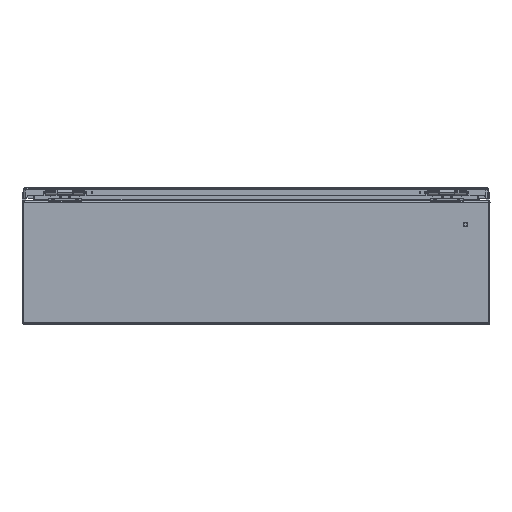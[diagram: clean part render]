
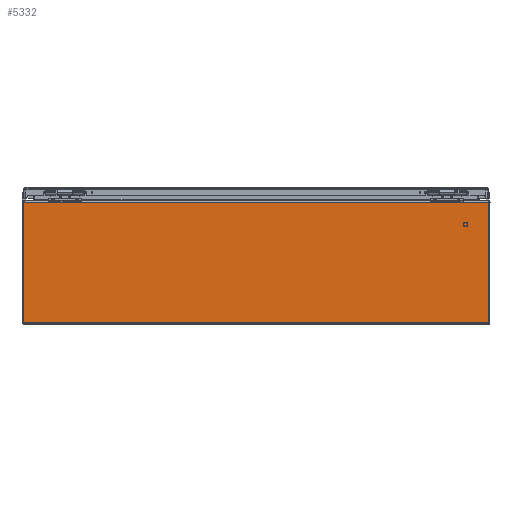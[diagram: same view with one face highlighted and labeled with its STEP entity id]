
A CAD part, left-side view. The second image highlights one B-rep face of the part: STEP entity #5332.
In plain terms, the highlighted planar face has unit normal (-1, 0, 0).
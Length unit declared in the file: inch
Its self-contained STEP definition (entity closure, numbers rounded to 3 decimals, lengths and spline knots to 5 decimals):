
#5332 = ADVANCED_FACE ( 'NONE', ( #39017 ), #40360, .T. ) ;
#10221 = EDGE_CURVE ( 'NONE', #11283, #11267, #18961, .T. ) ;
#10265 = EDGE_CURVE ( 'NONE', #11267, #32257, #19026, .T. ) ;
#10278 = EDGE_CURVE ( 'NONE', #32257, #32245, #19058, .T. ) ;
#10329 = EDGE_CURVE ( 'NONE', #11283, #32245, #22314, .T. ) ;
#11267 = VERTEX_POINT ( 'NONE', #24489 ) ;
#11283 = VERTEX_POINT ( 'NONE', #24505 ) ;
#14772 = EDGE_LOOP ( 'NONE', ( #16818, #16817, #16816, #16815 ) ) ;
#16815 = ORIENTED_EDGE ( 'NONE', *, *, #10265, .T. ) ;
#16816 = ORIENTED_EDGE ( 'NONE', *, *, #10221, .T. ) ;
#16817 = ORIENTED_EDGE ( 'NONE', *, *, #10329, .F. ) ;
#16818 = ORIENTED_EDGE ( 'NONE', *, *, #10278, .T. ) ;
#18961 = LINE ( 'NONE', #20687, #18965 ) ;
#18965 = VECTOR ( 'NONE', #20692, 39.37008 ) ;
#19026 = LINE ( 'NONE', #20904, #19036 ) ;
#19036 = VECTOR ( 'NONE', #20906, 39.37008 ) ;
#19058 = LINE ( 'NONE', #21996, #19059 ) ;
#19059 = VECTOR ( 'NONE', #21997, 39.37008 ) ;
#20687 = CARTESIAN_POINT ( 'NONE',  ( -15., 14.92093, 7.838 ) ) ;
#20692 = DIRECTION ( 'NONE',  ( 0., 0., -1. ) ) ;
#20904 = CARTESIAN_POINT ( 'NONE',  ( -15., 165., 0.132 ) ) ;
#20906 = DIRECTION ( 'NONE',  ( 0., -1., 0. ) ) ;
#21996 = CARTESIAN_POINT ( 'NONE',  ( -15., -14.92093, 7.838 ) ) ;
#21997 = DIRECTION ( 'NONE',  ( 0., 0., 1. ) ) ;
#22123 = CARTESIAN_POINT ( 'NONE',  ( -15., 165., 7.838 ) ) ;
#22124 = DIRECTION ( 'NONE',  ( 0., -1., 0. ) ) ;
#22314 = LINE ( 'NONE', #22123, #22315 ) ;
#22315 = VECTOR ( 'NONE', #22124, 39.37008 ) ;
#24489 = CARTESIAN_POINT ( 'NONE',  ( -15., 14.92093, 0.132 ) ) ;
#24505 = CARTESIAN_POINT ( 'NONE',  ( -15., 14.92093, 7.838 ) ) ;
#32245 = VERTEX_POINT ( 'NONE', #34761 ) ;
#32257 = VERTEX_POINT ( 'NONE', #34769 ) ;
#34761 = CARTESIAN_POINT ( 'NONE',  ( -15., -14.92093, 7.838 ) ) ;
#34769 = CARTESIAN_POINT ( 'NONE',  ( -15., -14.92093, 0.132 ) ) ;
#38803 = AXIS2_PLACEMENT_3D ( 'NONE', #40355, #40365, #40366 ) ;
#39017 = FACE_OUTER_BOUND ( 'NONE', #14772, .T. ) ;
#40355 = CARTESIAN_POINT ( 'NONE',  ( -15., 165., 7.838 ) ) ;
#40360 = PLANE ( 'NONE',  #38803 ) ;
#40365 = DIRECTION ( 'NONE',  ( -1., 0., 0. ) ) ;
#40366 = DIRECTION ( 'NONE',  ( 0., 0., -1. ) ) ;
